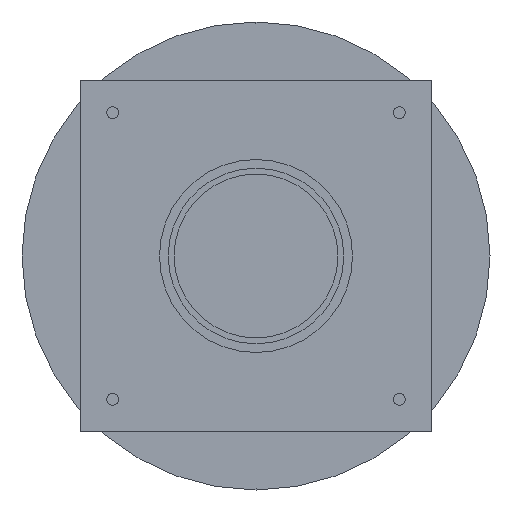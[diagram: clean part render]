
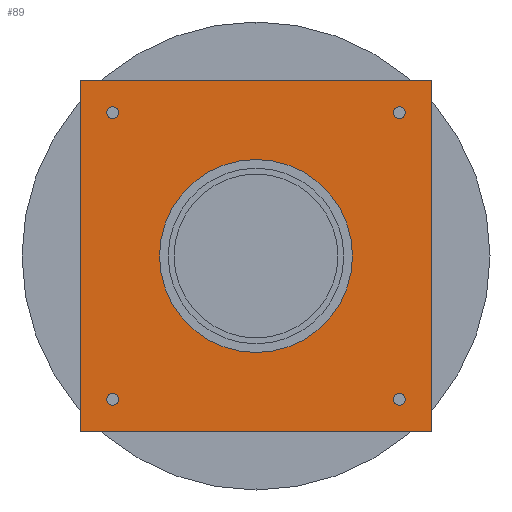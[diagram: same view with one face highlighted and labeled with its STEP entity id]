
A CAD part, front view. The second image highlights one B-rep face of the part: STEP entity #89.
In plain terms, the highlighted planar face has unit normal (0, -1, 0).
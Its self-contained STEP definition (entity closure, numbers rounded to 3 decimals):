
#89=ADVANCED_FACE('',(#187,#188,#189,#190,#191,#192),#193,.F.);
#187=FACE_OUTER_BOUND('',#298,.T.);
#188=FACE_BOUND('',#299,.T.);
#189=FACE_BOUND('',#300,.T.);
#190=FACE_BOUND('',#301,.T.);
#191=FACE_BOUND('',#302,.T.);
#192=FACE_BOUND('',#303,.T.);
#193=PLANE('',#304);
#298=EDGE_LOOP('',(#613,#614,#615,#616));
#299=EDGE_LOOP('',(#617,#618));
#300=EDGE_LOOP('',(#619,#620));
#301=EDGE_LOOP('',(#621,#622));
#302=EDGE_LOOP('',(#623,#624));
#303=EDGE_LOOP('',(#625,#626));
#304=AXIS2_PLACEMENT_3D('',#627,#628,#629);
#613=ORIENTED_EDGE('',*,*,#759,.T.);
#614=ORIENTED_EDGE('',*,*,#756,.F.);
#615=ORIENTED_EDGE('',*,*,#760,.F.);
#616=ORIENTED_EDGE('',*,*,#754,.F.);
#617=ORIENTED_EDGE('',*,*,#713,.T.);
#618=ORIENTED_EDGE('',*,*,#729,.T.);
#619=ORIENTED_EDGE('',*,*,#743,.T.);
#620=ORIENTED_EDGE('',*,*,#682,.T.);
#621=ORIENTED_EDGE('',*,*,#745,.T.);
#622=ORIENTED_EDGE('',*,*,#678,.T.);
#623=ORIENTED_EDGE('',*,*,#747,.T.);
#624=ORIENTED_EDGE('',*,*,#674,.T.);
#625=ORIENTED_EDGE('',*,*,#749,.T.);
#626=ORIENTED_EDGE('',*,*,#670,.T.);
#627=CARTESIAN_POINT('',(0.0,0.0,0.0));
#628=DIRECTION('',(0.0,1.0,0.0));
#629=DIRECTION('',(1.0,0.0,-0.0));
#670=EDGE_CURVE('',#774,#778,#780,.T.);
#674=EDGE_CURVE('',#782,#786,#788,.T.);
#678=EDGE_CURVE('',#790,#794,#796,.T.);
#682=EDGE_CURVE('',#798,#802,#804,.T.);
#713=EDGE_CURVE('',#863,#860,#864,.T.);
#729=EDGE_CURVE('',#860,#863,#889,.T.);
#743=EDGE_CURVE('',#802,#798,#903,.T.);
#745=EDGE_CURVE('',#794,#790,#905,.T.);
#747=EDGE_CURVE('',#786,#782,#907,.T.);
#749=EDGE_CURVE('',#778,#774,#909,.T.);
#754=EDGE_CURVE('',#916,#911,#918,.T.);
#756=EDGE_CURVE('',#920,#922,#923,.T.);
#759=EDGE_CURVE('',#916,#922,#927,.T.);
#760=EDGE_CURVE('',#911,#920,#928,.T.);
#774=VERTEX_POINT('',#942);
#778=VERTEX_POINT('',#947);
#780=CIRCLE('',#950,5.0);
#782=VERTEX_POINT('',#952);
#786=VERTEX_POINT('',#957);
#788=CIRCLE('',#960,5.0);
#790=VERTEX_POINT('',#962);
#794=VERTEX_POINT('',#967);
#796=CIRCLE('',#970,5.0);
#798=VERTEX_POINT('',#972);
#802=VERTEX_POINT('',#977);
#804=CIRCLE('',#980,5.0);
#860=VERTEX_POINT('',#1048);
#863=VERTEX_POINT('',#1052);
#864=CIRCLE('',#1053,82.5);
#889=CIRCLE('',#1083,82.5);
#903=CIRCLE('',#1097,5.0);
#905=CIRCLE('',#1099,5.0);
#907=CIRCLE('',#1101,5.0);
#909=CIRCLE('',#1103,5.0);
#911=VERTEX_POINT('',#1105);
#916=VERTEX_POINT('',#1112);
#918=LINE('',#1115,#1116);
#920=VERTEX_POINT('',#1118);
#922=VERTEX_POINT('',#1121);
#923=LINE('',#1122,#1123);
#927=LINE('',#1129,#1130);
#928=LINE('',#1131,#1132);
#942=CARTESIAN_POINT('',(-117.5,0.0,-122.5));
#947=CARTESIAN_POINT('',(-127.5,0.0,-122.5));
#950=AXIS2_PLACEMENT_3D('',#1160,#1161,#1162);
#952=CARTESIAN_POINT('',(127.5,0.0,-122.5));
#957=CARTESIAN_POINT('',(117.5,0.0,-122.5));
#960=AXIS2_PLACEMENT_3D('',#1168,#1169,#1170);
#962=CARTESIAN_POINT('',(-117.5,0.0,122.5));
#967=CARTESIAN_POINT('',(-127.5,0.0,122.5));
#970=AXIS2_PLACEMENT_3D('',#1176,#1177,#1178);
#972=CARTESIAN_POINT('',(127.5,0.0,122.5));
#977=CARTESIAN_POINT('',(117.5,0.0,122.5));
#980=AXIS2_PLACEMENT_3D('',#1184,#1185,#1186);
#1048=CARTESIAN_POINT('',(82.5,0.0,0.));
#1052=CARTESIAN_POINT('',(-82.5,0.0,0.));
#1053=AXIS2_PLACEMENT_3D('',#1251,#1252,#1253);
#1083=AXIS2_PLACEMENT_3D('',#1289,#1290,#1291);
#1097=AXIS2_PLACEMENT_3D('',#1331,#1332,#1333);
#1099=AXIS2_PLACEMENT_3D('',#1337,#1338,#1339);
#1101=AXIS2_PLACEMENT_3D('',#1343,#1344,#1345);
#1103=AXIS2_PLACEMENT_3D('',#1349,#1350,#1351);
#1105=CARTESIAN_POINT('',(150.0,0.0,150.0));
#1112=CARTESIAN_POINT('',(-150.0,0.0,150.0));
#1115=CARTESIAN_POINT('',(0.0,0.0,150.0));
#1116=VECTOR('',#1358,1.0);
#1118=CARTESIAN_POINT('',(150.0,0.0,-150.0));
#1121=CARTESIAN_POINT('',(-150.0,0.0,-150.0));
#1122=CARTESIAN_POINT('',(0.0,0.0,-150.0));
#1123=VECTOR('',#1360,1.0);
#1129=CARTESIAN_POINT('',(-150.0,0.0,0.0));
#1130=VECTOR('',#1363,1.0);
#1131=CARTESIAN_POINT('',(150.0,0.0,0.0));
#1132=VECTOR('',#1364,1.0);
#1160=CARTESIAN_POINT('',(-122.5,0.0,-122.5));
#1161=DIRECTION('',(-0.0,1.0,0.0));
#1162=DIRECTION('',(1.0,0.0,0.0));
#1168=CARTESIAN_POINT('',(122.5,0.0,-122.5));
#1169=DIRECTION('',(-0.0,1.0,0.0));
#1170=DIRECTION('',(1.0,0.0,0.0));
#1176=CARTESIAN_POINT('',(-122.5,0.0,122.5));
#1177=DIRECTION('',(-0.0,1.0,0.0));
#1178=DIRECTION('',(1.0,0.0,0.0));
#1184=CARTESIAN_POINT('',(122.5,0.0,122.5));
#1185=DIRECTION('',(-0.0,1.0,0.0));
#1186=DIRECTION('',(1.0,0.0,0.0));
#1251=CARTESIAN_POINT('',(0.0,0.0,0.0));
#1252=DIRECTION('',(-0.0,1.0,0.0));
#1253=DIRECTION('',(1.0,0.0,0.0));
#1289=CARTESIAN_POINT('',(0.0,0.0,0.0));
#1290=DIRECTION('',(-0.0,1.0,0.0));
#1291=DIRECTION('',(1.0,0.0,0.0));
#1331=CARTESIAN_POINT('',(122.5,0.0,122.5));
#1332=DIRECTION('',(-0.0,1.0,0.0));
#1333=DIRECTION('',(1.0,0.0,0.0));
#1337=CARTESIAN_POINT('',(-122.5,0.0,122.5));
#1338=DIRECTION('',(-0.0,1.0,0.0));
#1339=DIRECTION('',(1.0,0.0,0.0));
#1343=CARTESIAN_POINT('',(122.5,0.0,-122.5));
#1344=DIRECTION('',(-0.0,1.0,0.0));
#1345=DIRECTION('',(1.0,0.0,0.0));
#1349=CARTESIAN_POINT('',(-122.5,0.0,-122.5));
#1350=DIRECTION('',(-0.0,1.0,0.0));
#1351=DIRECTION('',(1.0,0.0,0.0));
#1358=DIRECTION('',(1.0,0.0,0.0));
#1360=DIRECTION('',(-1.0,0.0,0.0));
#1363=DIRECTION('',(0.0,0.0,-1.0));
#1364=DIRECTION('',(0.0,0.0,-1.0));
